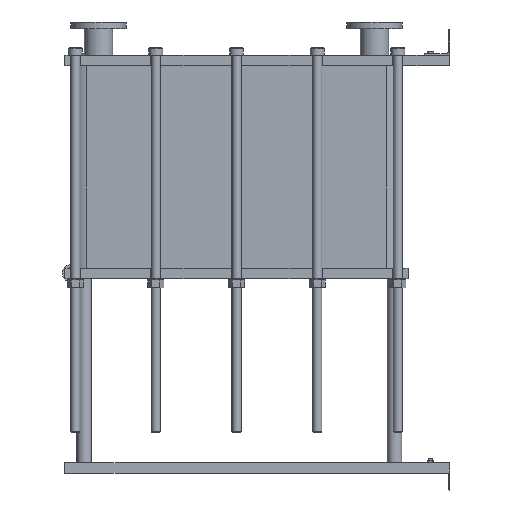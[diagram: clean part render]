
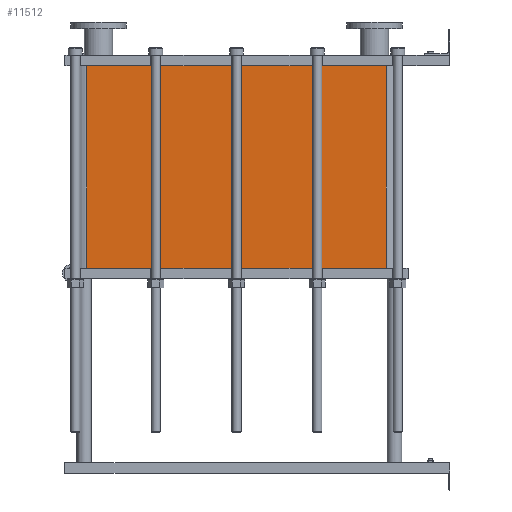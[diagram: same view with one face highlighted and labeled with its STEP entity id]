
A CAD part, left-side view. The second image highlights one B-rep face of the part: STEP entity #11512.
In plain terms, the highlighted planar face has unit normal (-1, 0, 0).
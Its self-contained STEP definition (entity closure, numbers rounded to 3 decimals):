
#1129=LINE('',#23232,#2102);
#1130=LINE('',#23236,#2103);
#1131=LINE('',#23238,#2104);
#1132=LINE('',#23239,#2105);
#2102=VECTOR('',#15887,10.);
#2103=VECTOR('',#15892,10.);
#2104=VECTOR('',#15893,10.);
#2105=VECTOR('',#15894,10.);
#3267=FACE_OUTER_BOUND('',#4093,.T.);
#4093=EDGE_LOOP('',(#10103,#10104,#10105,#10106));
#5642=VERTEX_POINT('',#23229);
#5643=VERTEX_POINT('',#23231);
#5644=VERTEX_POINT('',#23235);
#5645=VERTEX_POINT('',#23237);
#7159=EDGE_CURVE('',#5643,#5642,#1129,.T.);
#7161=EDGE_CURVE('',#5642,#5644,#1130,.T.);
#7162=EDGE_CURVE('',#5645,#5644,#1131,.T.);
#7163=EDGE_CURVE('',#5645,#5643,#1132,.T.);
#10103=ORIENTED_EDGE('',*,*,#7161,.T.);
#10104=ORIENTED_EDGE('',*,*,#7162,.F.);
#10105=ORIENTED_EDGE('',*,*,#7163,.T.);
#10106=ORIENTED_EDGE('',*,*,#7159,.T.);
#10857=PLANE('',#12751);
#11512=ADVANCED_FACE('',(#3267),#10857,.T.);
#12751=AXIS2_PLACEMENT_3D('',#23234,#15890,#15891);
#15887=DIRECTION('',(0.,0.,-1.));
#15890=DIRECTION('center_axis',(-1.,0.,0.));
#15891=DIRECTION('ref_axis',(0.,1.,0.));
#15892=DIRECTION('',(0.,-1.,0.));
#15893=DIRECTION('',(0.,0.,-1.));
#15894=DIRECTION('',(0.,1.,0.));
#23229=CARTESIAN_POINT('',(-200.,1414.,-790.05));
#23231=CARTESIAN_POINT('',(-200.,1414.,0.));
#23232=CARTESIAN_POINT('',(-200.,1414.,0.));
#23234=CARTESIAN_POINT('Origin',(-200.,248.,0.));
#23235=CARTESIAN_POINT('',(-200.,248.,-790.05));
#23236=CARTESIAN_POINT('',(-200.,539.5,-790.05));
#23237=CARTESIAN_POINT('',(-200.,248.,0.));
#23238=CARTESIAN_POINT('',(-200.,248.,0.));
#23239=CARTESIAN_POINT('',(-200.,248.,0.));
